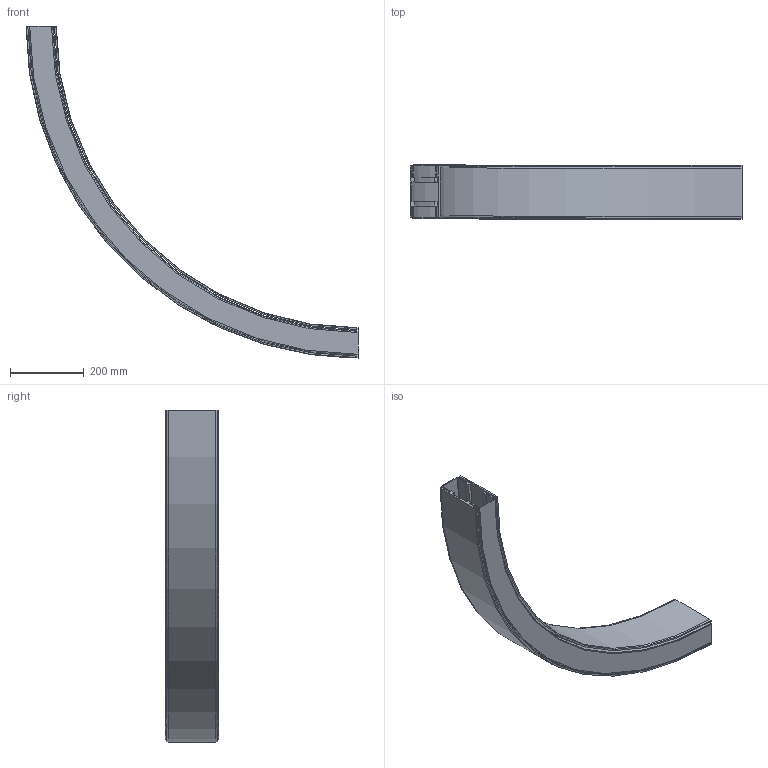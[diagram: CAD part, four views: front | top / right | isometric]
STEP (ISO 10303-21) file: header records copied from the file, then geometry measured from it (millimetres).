
FILE_DESCRIPTION(/* description */ ('VERTIKALKURVA S540 R860'),/* implementation_level */ '2;1');
FILE_NAME(/* name */ '540-5695+140-2000-NER-01.stp',/* time_stamp */ '2022-09-21T11:27:17+02:00',/* author */ ('Mathias.Dore'),/* organization */ ('CARRYLINE'),/* preprocessor_version */ 'ST-DEVELOPER v19.2',/* originating_system */ 'Autodesk Inventor 2023',/* authorisation */ '');
FILE_SCHEMA (('AUTOMOTIVE_DESIGN { 1 0 10303 214 3 1 1 }'));
Length unit declared in the file: millimetre
Products named in the file (1): 540-5695+140-2000-NER-01
Bounding box: 899.5 x 146 x 899.5 mm (x, y, z)
Volume: 3096416.6 mm3; surface area: 1603979.5 mm2
Topology: 2 solids, 2 shells, 87 faces, 234 edges, 156 vertices
Faces by surface type: plane 40, cylinder 25, bspline 14, cone 4, torus 4
Entity records: 7369 total; most frequent: CARTESIAN_POINT 5170, ORIENTED_EDGE 468, DIRECTION 408, EDGE_CURVE 234, VERTEX_POINT 156, AXIS2_PLACEMENT_3D 141, LINE 126, VECTOR 126
